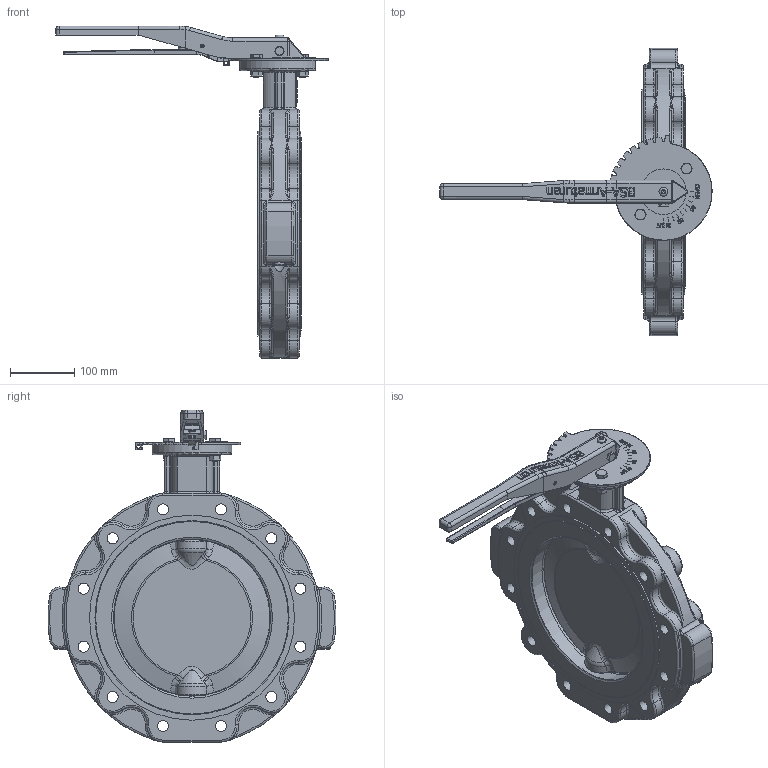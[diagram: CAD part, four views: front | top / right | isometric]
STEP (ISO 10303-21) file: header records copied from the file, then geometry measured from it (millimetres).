
FILE_DESCRIPTION((''),'2;1');
FILE_NAME('K:\Inventor\1 Artikel\10) Absperrklappen\10a) manuell\Chemvalve\844-GGG, CST-L\844-GGG, DN250\844-GGG, DN250, 3D\844-GGG, DN250, PN10, HH, 3D.stp','2019-08-13T13:19:10',('claudia'),(''),'Autodesk Inventor 2013','Autodesk Inventor 2013','');
FILE_SCHEMA(('AUTOMOTIVE_DESIGN { 1 0 10303 214 1 1 1 1 }'));
Length unit declared in the file: millimetre
Products named in the file (1): Bauteil36
Bounding box: 425 x 449.41 x 518.14 mm (x, y, z)
Volume: 6065099.2 mm3; surface area: 702917 mm2
Topology: 1 solids, 5 shells, 2189 faces, 5686 edges, 3531 vertices
Faces by surface type: plane 822, bspline 668, cylinder 362, torus 236, cone 63, sphere 38
Full cylindrical faces by diameter (mm): 2.65 x4, 5.5 x2, 6 x2, 6.4 x1, 6.647 x1, 7 x2, 8 x1, 9 x1, 10 x3, 11 x4, 11.63 x1, 14 x1, 14.63 x2, 16 x2, 17.294 x12, 17.5 x2, 24 x2, 26 x2, 30 x1, 34 x1, 38 x1, 71 x2, 269.6 x1, 300.8 x2, 303 x2, 320 x2
Entity records: 81608 total; most frequent: CARTESIAN_POINT 31073, ORIENTED_EDGE 10924, DIRECTION 8463, EDGE_CURVE 5462, VERTEX_POINT 3486, AXIS2_PLACEMENT_3D 2938, VECTOR 2587, LINE 2587
